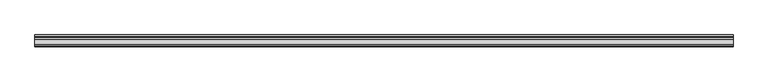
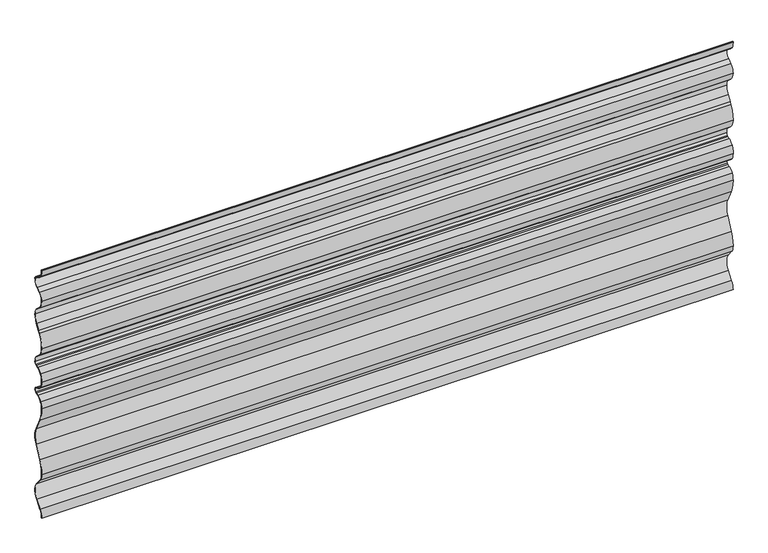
"""IFC4 building model written with IfcOpenShell, lengths in millimetres: plate geometry, Ritmica Horizontal 834 : Ritmica Horizontal 831."""

from ifc_helpers import new_model, si_unit, frame, origin, place, context, project, spatial, polyline, circle_curve, source, transform, mapped, element, save
from ifc_brep_helpers import plane_surface, cylinder_surface, revolved_surface, advanced_brep


def plate_a48b8e76(model_context):
    return source(origin(), model_context, "Body", "AdvancedBrep", [
        advanced_brep(
        [(-1100.1688045, 6.8025667, 810.5701527), (-1100.1688045, 21.555412, 798.1235366), (-1100.1688045, 28.7508552, 795.2445695), (-1100.1688045, 32.2159416, 793.5852059), (-1100.1688045, 37.2499774, 785.5962388), (-1100.1688045, 25.2234387, 760.6206134), (-1100.1688045, 13.2407158, 751.0704574), (-1100.1688045, 1.2626984, 728.5919745), (-1100.1688045, 13.2668735, 701.127971), (-1100.1688045, 25.2571141, 690.0241978), (-1100.1688045, 37.3018308, 665.0573339), (-1100.1688045, 28.8878199, 638.3240963), (-1100.1688045, 17.756965, 620.9910926), (-1100.1688045, 13.3621237, 613.5575548), (-1100.1688045, 1.1795962, 569.3793833), (-1100.1688045, 13.1837712, 541.9153798), (-1100.1688045, 25.1740116, 530.8116067), (-1100.1688045, 37.2187289, 505.8415328), (-1100.1688045, 32.1905098, 497.8521133), (-1100.1688045, 28.7266321, 496.1902275), (-1100.1688045, 21.5332543, 493.3060102), (-1100.1688045, 6.7895069, 480.8486726), (-1100.1688045, 1.0915766, 457.0856569), (-1100.1688045, 6.6008381, 437.5469103), (-1100.1688045, 21.3536834, 425.1002943), (-1100.1688045, 28.5491266, 422.2213272), (-1100.1688045, 32.014213, 420.5619636), (-1100.1688045, 32.02003, 404.580367), (-1100.1688045, 28.5561524, 402.9184814), (-1100.1688045, 21.3628069, 400.034277), (-1100.1688045, 6.6190262, 387.5769248), (-1100.1688045, 1.1239895, 368.0341733), (-1100.1688045, 10.3054912, 324.2892209), (-1100.1688045, 30.7021579, 283.7581494), (-1100.1688045, 30.7217778, 229.8542794), (-1100.1688045, 10.3546215, 189.3083707), (-1100.1688045, 1.2049668, 145.5567461), (-1100.1688045, 9.8168279, 121.7925982), (-1100.1688045, 28.5126192, 99.3683726), (-1100.1688045, 28.5318582, 46.5109184), (-1100.1688045, 9.8523958, 23.7707747), (-1100.1688045, 1.2578365, 0.0), (-1100.1688045, 0.2578364, 0.0), (-1100.1688045, 9.0838592, 24.4105804), (-1100.1688045, 27.7463674, 47.1303588), (-1100.1688045, 27.7275795, 98.7483605), (-1100.1688045, 9.0487572, 121.1522332), (-1100.1688045, 0.2049775, 145.5386154), (-1100.1688045, 9.4571227, 189.7494732), (-1100.1688045, 29.8281826, 230.3031531), (-1100.1688045, 29.8088897, 283.3086253), (-1100.1688045, 9.4083137, 323.8474651), (-1100.1688045, 0.1239872, 368.0515751), (-1100.1688045, 5.7657549, 388.0983921), (-1100.1688045, 20.9908725, 400.9625361), (-1100.1688045, 28.1533532, 403.834365), (-1100.1688045, 31.587463, 405.4819688), (-1100.1688045, 31.5823024, 419.6600471), (-1100.1688045, 28.1469942, 421.3051505), (-1100.1688045, 20.9824248, 424.1717647), (-1100.1688045, 5.7479467, 437.024822), (-1100.1688045, 0.091602, 457.0529178), (-1100.1688045, 5.9328795, 481.3646468), (-1100.1688045, 21.1612849, 494.2342551), (-1100.1688045, 28.3238328, 497.1061111), (-1100.1688045, 31.7579428, 498.7537151), (-1100.1688045, 36.2187289, 505.841531), (-1100.1688045, 24.5223371, 530.052163), (-1100.1688045, 12.5043072, 541.1816709), (-1100.1688045, 0.1796018, 569.3680226), (-1100.1688045, 12.5080329, 614.0778463), (-1100.1688045, 16.9055506, 621.5159109), (-1100.1688045, 28.0560887, 638.8795656), (-1100.1688045, 36.3018302, 665.0587755), (-1100.1688045, 24.6053425, 689.2648438), (-1100.1688045, 12.5874095, 700.3942621), (-1100.1688045, 0.2626985, 728.5916105), (-1100.1688045, 12.6491122, 751.8777021), (-1100.1688045, 24.6001782, 761.4026277), (-1100.1688045, 36.2499775, 785.5958749), (-1100.1688045, 31.784031, 792.6832895), (-1100.1688045, 28.3487228, 794.3283929), (-1100.1688045, 21.1826741, 797.1955989), (-1100.1688045, 5.9471369, 810.0521734), (-1100.1688045, 0.0019432, 831.6592816), (-1100.1688045, 0.0, 834.3289815), (-1100.1688045, 1.0, 834.3289815), (-1100.1688045, 1.0, 831.6596456), (1100.1688045, 6.8025667, 810.5701527), (1100.1688045, 1.0019432, 831.6596456), (1100.1688045, 1.0, 834.3289815), (1100.1688045, 0.0, 834.3289815), (1100.1688045, 0.0, 831.6596456), (1100.1688045, 5.9471369, 810.0521734), (1100.1688045, 21.1826741, 797.1955989), (1100.1688045, 28.3487228, 794.3283929), (1100.1688045, 31.784031, 792.6832895), (1100.1688045, 36.2499775, 785.5958749), (1100.1688045, 24.6001782, 761.4026277), (1100.1688045, 12.6491122, 751.8777021), (1100.1688045, 0.2626985, 728.5916105), (1100.1688045, 12.5874095, 700.3942621), (1100.1688045, 24.6053425, 689.2648438), (1100.1688045, 36.3018302, 665.0587755), (1100.1688045, 28.0560887, 638.8795656), (1100.1688045, 16.9055506, 621.5159109), (1100.1688045, 12.5080329, 614.0778463), (1100.1688045, 0.1796018, 569.3680226), (1100.1688045, 12.5043072, 541.1816709), (1100.1688045, 24.5223371, 530.052163), (1100.1688045, 36.2187289, 505.841531), (1100.1688045, 31.7579428, 498.7537151), (1100.1688045, 28.3238328, 497.1061111), (1100.1688045, 21.1612849, 494.2342551), (1100.1688045, 5.9328795, 481.3646468), (1100.1688045, 0.091602, 457.0529178), (1100.1688045, 5.7479467, 437.024822), (1100.1688045, 20.9824248, 424.1717647), (1100.1688045, 28.1469942, 421.3051505), (1100.1688045, 31.5823024, 419.6600471), (1100.1688045, 31.587463, 405.4819688), (1100.1688045, 28.1533532, 403.834365), (1100.1688045, 20.9908725, 400.9625361), (1100.1688045, 5.7657549, 388.0983921), (1100.1688045, 0.1239872, 368.0515751), (1100.1688045, 9.4083137, 323.8474651), (1100.1688045, 29.8088897, 283.3086253), (1100.1688045, 29.8281826, 230.3031531), (1100.1688045, 9.4571227, 189.7494732), (1100.1688045, 0.2049775, 145.5386154), (1100.1688045, 9.0487572, 121.1522332), (1100.1688045, 27.7275795, 98.7483605), (1100.1688045, 27.7463674, 47.1303588), (1100.1688045, 9.0838592, 24.4105804), (1100.1688045, 0.2578364, 0.0), (1100.1688045, 1.2578365, 0.0), (1100.1688045, 9.8523958, 23.7707747), (1100.1688045, 28.5318582, 46.5109184), (1100.1688045, 28.5126192, 99.3683726), (1100.1688045, 9.8168279, 121.7925982), (1100.1688045, 1.2049668, 145.5567461), (1100.1688045, 10.3546215, 189.3083707), (1100.1688045, 30.7217778, 229.8542794), (1100.1688045, 30.7021579, 283.7581494), (1100.1688045, 10.3054912, 324.2892209), (1100.1688045, 1.1239895, 368.0341733), (1100.1688045, 6.6190262, 387.5769248), (1100.1688045, 21.3628069, 400.034277), (1100.1688045, 28.5561524, 402.9184814), (1100.1688045, 32.02003, 404.580367), (1100.1688045, 32.014213, 420.5619636), (1100.1688045, 28.5491266, 422.2213272), (1100.1688045, 21.3536834, 425.1002943), (1100.1688045, 6.6008381, 437.5469103), (1100.1688045, 1.0915766, 457.0856569), (1100.1688045, 6.7895069, 480.8486726), (1100.1688045, 21.5332543, 493.3060102), (1100.1688045, 28.7266321, 496.1902275), (1100.1688045, 32.1905098, 497.8521133), (1100.1688045, 37.2187289, 505.8415328), (1100.1688045, 25.1740116, 530.8116067), (1100.1688045, 13.1837712, 541.9153798), (1100.1688045, 1.1795962, 569.3793833), (1100.1688045, 13.3621237, 613.5575548), (1100.1688045, 17.756965, 620.9910926), (1100.1688045, 28.8878199, 638.3240963), (1100.1688045, 37.3018308, 665.0573339), (1100.1688045, 25.2571141, 690.0241978), (1100.1688045, 13.2668735, 701.127971), (1100.1688045, 1.2626984, 728.5919745), (1100.1688045, 13.2407158, 751.0704574), (1100.1688045, 25.2234387, 760.6206134), (1100.1688045, 37.2499774, 785.5962388), (1100.1688045, 32.2159416, 793.5852059), (1100.1688045, 28.7508552, 795.2445695), (1100.1688045, 21.555412, 798.1235366)],
        [
            (0, 1, circle_curve(frame((-1100.1688045, 33.118426, 826.7955631), z_axis=(1.0, 0.0, 0.0), x_axis=(0.0, 0.0, 1.0)), 30.9158276)),
            (1, 2),
            (2, 3),
            (3, 4, circle_curve(frame((-1100.1688045, 28.3886335, 785.5930135), z_axis=(-1.0, 0.0, 0.0), x_axis=(0.0, 0.0, 1.0)), 8.8613445)),
            (4, 5, circle_curve(frame((-1100.1688045, 5.3272804, 785.5846196), z_axis=(-1.0, 0.0, 0.0), x_axis=(0.0, 0.0, 1.0)), 31.9226992)),
            (5, 6),
            (6, 7, circle_curve(frame((-1100.1688045, 28.3252849, 728.6018247), z_axis=(1.0, 0.0, 0.0), x_axis=(0.0, 0.0, 1.0)), 27.0625882)),
            (7, 8, circle_curve(frame((-1100.1688045, 38.7130204, 728.6056057), z_axis=(1.0, 0.0, 0.0), x_axis=(0.0, 0.0, 1.0)), 37.4503244)),
            (8, 9),
            (9, 10, circle_curve(frame((-1100.1688045, 5.3791338, 665.0457146), z_axis=(-1.0, 0.0, 0.0), x_axis=(0.0, 0.0, 1.0)), 31.9226992)),
            (10, 11, circle_curve(frame((-1100.1688045, -9.8619916, 665.2109304), z_axis=(-1.0, 0.0, 0.0), x_axis=(0.0, 0.0, 1.0)), 47.1640725)),
            (11, 12),
            (12, 13),
            (13, 14, circle_curve(frame((-1100.1688045, 80.9291998, 571.1565204), z_axis=(1.0, 0.0, 0.0), x_axis=(0.0, 0.0, 1.0)), 79.769402)),
            (14, 15, circle_curve(frame((-1100.1688045, 38.6299181, 569.3930144), z_axis=(1.0, 0.0, 0.0), x_axis=(0.0, 0.0, 1.0)), 37.4503244)),
            (15, 16),
            (16, 17, circle_curve(frame((-1100.1688045, 5.3133473, 505.8414768), z_axis=(-1.0, 0.0, 0.0), x_axis=(0.0, 0.0, 1.0)), 31.9053816)),
            (17, 18, circle_curve(frame((-1100.1688045, 28.3573845, 505.8415173), z_axis=(-1.0, 0.0, 0.0), x_axis=(0.0, 0.0, 1.0)), 8.8613444)),
            (18, 19),
            (19, 20),
            (20, 21, circle_curve(frame((-1100.1688045, 32.9138374, 464.8830737), z_axis=(1.0, 0.0, 0.0), x_axis=(0.0, 0.0, 1.0)), 30.6166783)),
            (21, 22, circle_curve(frame((-1100.1688045, 42.2970284, 459.7699907), z_axis=(1.0, 0.0, 0.0), x_axis=(0.0, 0.0, 1.0)), 41.2927948)),
            (22, 23, circle_curve(frame((-1100.1688045, 38.5418985, 457.0992876), z_axis=(1.0, 0.0, 0.0), x_axis=(0.0, 0.0, 1.0)), 37.4503244)),
            (23, 24, circle_curve(frame((-1100.1688045, 32.7135403, 453.5315208), z_axis=(1.0, 0.0, 0.0), x_axis=(0.0, 0.0, 1.0)), 30.6166783)),
            (24, 25),
            (25, 26),
            (26, 27, circle_curve(frame((-1100.1688045, 28.1869049, 412.5697711), z_axis=(-1.0, 0.0, 0.0), x_axis=(0.0, 0.0, 1.0)), 8.8613445)),
            (27, 28),
            (28, 29),
            (29, 30, circle_curve(frame((-1100.1688045, 32.7433576, 371.6113276), z_axis=(1.0, 0.0, 0.0), x_axis=(0.0, 0.0, 1.0)), 30.6166783)),
            (30, 31, circle_curve(frame((-1100.1688045, 38.5743114, 368.0478045), z_axis=(1.0, 0.0, 0.0), x_axis=(0.0, 0.0, 1.0)), 37.4503244)),
            (31, 32, circle_curve(frame((-1100.1688045, 94.360147, 364.7672254), z_axis=(1.0, 0.0, 0.0), x_axis=(0.0, 0.0, 1.0)), 93.293376)),
            (32, 33),
            (33, 34, circle_curve(frame((-1100.1688045, -22.8939341, 256.7867029), z_axis=(-1.0, 0.0, 0.0), x_axis=(0.0, 0.0, 1.0)), 60.0)),
            (34, 35),
            (35, 36, circle_curve(frame((-1100.1688045, 94.4387214, 148.8915653), z_axis=(1.0, 0.0, 0.0), x_axis=(0.0, 0.0, 1.0)), 93.293376)),
            (36, 37, circle_curve(frame((-1100.1688045, 38.3363847, 145.5702612), z_axis=(1.0, 0.0, 0.0), x_axis=(0.0, 0.0, 1.0)), 37.1314203)),
            (37, 38),
            (38, 39, circle_curve(frame((-1100.1688045, -6.831934, 72.9267773), z_axis=(-1.0, 0.0, 0.0), x_axis=(0.0, 0.0, 1.0)), 44.1406321)),
            (39, 40),
            (40, 41, circle_curve(frame((-1100.1688045, 38.3892542, 0.0138791), z_axis=(1.0, 0.0, 0.0), x_axis=(0.0, 0.0, 1.0)), 37.1314203)),
            (41, 42),
            (42, 43, circle_curve(frame((-1100.1688045, 38.3892542, 0.0138791), z_axis=(-1.0, 0.0, 0.0), x_axis=(0.0, 0.0, 1.0)), 38.1314203)),
            (43, 44),
            (44, 45, circle_curve(frame((-1100.1688045, -6.831934, 72.9267773), z_axis=(1.0, 0.0, 0.0), x_axis=(0.0, 0.0, 1.0)), 43.1406321)),
            (45, 46),
            (46, 47, circle_curve(frame((-1100.1688045, 38.3363847, 145.5702612), z_axis=(-1.0, 0.0, 0.0), x_axis=(0.0, 0.0, 1.0)), 38.1314203)),
            (47, 48, circle_curve(frame((-1100.1688045, 94.4387214, 148.8915653), z_axis=(-1.0, 0.0, 0.0), x_axis=(0.0, 0.0, 1.0)), 94.293376)),
            (48, 49),
            (49, 50, circle_curve(frame((-1100.1688045, -22.8939341, 256.7867029), z_axis=(1.0, 0.0, 0.0), x_axis=(0.0, 0.0, 1.0)), 59.0)),
            (50, 51),
            (51, 52, circle_curve(frame((-1100.1688045, 94.360147, 364.7672254), z_axis=(-1.0, 0.0, 0.0), x_axis=(0.0, 0.0, 1.0)), 94.293376)),
            (52, 53, circle_curve(frame((-1100.1688045, 38.5743114, 368.0478045), z_axis=(-1.0, 0.0, 0.0), x_axis=(0.0, 0.0, 1.0)), 38.4503244)),
            (53, 54, circle_curve(frame((-1100.1688045, 32.7433576, 371.6113276), z_axis=(-1.0, 0.0, 0.0), x_axis=(0.0, 0.0, 1.0)), 31.6166783)),
            (54, 55),
            (55, 56),
            (56, 57, circle_curve(frame((-1100.1688045, 28.1869049, 412.5697711), z_axis=(1.0, 0.0, 0.0), x_axis=(0.0, 0.0, 1.0)), 7.8613445)),
            (57, 58),
            (58, 59),
            (59, 60, circle_curve(frame((-1100.1688045, 32.7135403, 453.5315208), z_axis=(-1.0, 0.0, 0.0), x_axis=(0.0, 0.0, 1.0)), 31.6166783)),
            (60, 61, circle_curve(frame((-1100.1688045, 38.5418985, 457.0992876), z_axis=(-1.0, 0.0, 0.0), x_axis=(0.0, 0.0, 1.0)), 38.4503244)),
            (61, 62, circle_curve(frame((-1100.1688045, 42.2970284, 459.7699907), z_axis=(-1.0, 0.0, 0.0), x_axis=(0.0, 0.0, 1.0)), 42.2927948)),
            (62, 63, circle_curve(frame((-1100.1688045, 32.9138374, 464.8830737), z_axis=(-1.0, 0.0, 0.0), x_axis=(0.0, 0.0, 1.0)), 31.6166782)),
            (63, 64),
            (64, 65),
            (65, 66, circle_curve(frame((-1100.1688045, 28.3573845, 505.8415173), z_axis=(1.0, 0.0, 0.0), x_axis=(0.0, 0.0, 1.0)), 7.8613444)),
            (66, 67, circle_curve(frame((-1100.1688045, 5.3133473, 505.8414768), z_axis=(1.0, 0.0, 0.0), x_axis=(0.0, 0.0, 1.0)), 30.9053816)),
            (67, 68),
            (68, 69, circle_curve(frame((-1100.1688045, 38.6299181, 569.3930144), z_axis=(-1.0, 0.0, 0.0), x_axis=(0.0, 0.0, 1.0)), 38.4503244)),
            (69, 70, circle_curve(frame((-1100.1688045, 80.9291998, 571.1565204), z_axis=(-1.0, 0.0, 0.0), x_axis=(0.0, 0.0, 1.0)), 80.769402)),
            (70, 71),
            (71, 72),
            (72, 73, circle_curve(frame((-1100.1688045, -9.8619916, 665.2109304), z_axis=(1.0, 0.0, 0.0), x_axis=(0.0, 0.0, 1.0)), 46.1640725)),
            (73, 74, circle_curve(frame((-1100.1688045, 5.3791338, 665.0457146), z_axis=(1.0, 0.0, 0.0), x_axis=(0.0, 0.0, 1.0)), 30.9226992)),
            (74, 75),
            (75, 76, circle_curve(frame((-1100.1688045, 38.7130204, 728.6056057), z_axis=(-1.0, 0.0, 0.0), x_axis=(0.0, 0.0, 1.0)), 38.4503244)),
            (76, 77, circle_curve(frame((-1100.1688045, 28.3252849, 728.6018247), z_axis=(-1.0, 0.0, 0.0), x_axis=(0.0, 0.0, 1.0)), 28.0625882)),
            (77, 78),
            (78, 79, circle_curve(frame((-1100.1688045, 5.3272804, 785.5846196), z_axis=(1.0, 0.0, 0.0), x_axis=(0.0, 0.0, 1.0)), 30.9226992)),
            (79, 80, circle_curve(frame((-1100.1688045, 28.3886335, 785.5930135), z_axis=(1.0, 0.0, 0.0), x_axis=(0.0, 0.0, 1.0)), 7.8613445)),
            (80, 81),
            (81, 82),
            (82, 83, circle_curve(frame((-1100.1688045, 33.118426, 826.7955631), z_axis=(-1.0, 0.0, 0.0), x_axis=(0.0, 0.0, 1.0)), 31.9158276)),
            (83, 84, circle_curve(frame((-1100.1688045, 42.2947353, 831.6746753), z_axis=(-1.0, 0.0, 0.0), x_axis=(0.0, 0.0, 1.0)), 42.2927949)),
            (84, 85),
            (85, 86),
            (86, 87),
            (87, 0, circle_curve(frame((-1100.1688045, 42.2947353, 831.6746753), z_axis=(1.0, 0.0, 0.0), x_axis=(0.0, 0.0, 1.0)), 41.2927949)),
            (88, 89, circle_curve(frame((1100.1688045, 42.2947353, 831.6746753), z_axis=(-1.0, 0.0, 0.0), x_axis=(0.0, 0.0, 1.0)), 41.2927949)),
            (89, 90),
            (90, 91),
            (91, 92),
            (92, 93, circle_curve(frame((1100.1688045, 42.2947353, 831.6746753), z_axis=(1.0, 0.0, 0.0), x_axis=(0.0, 0.0, 1.0)), 42.2927949)),
            (93, 94, circle_curve(frame((1100.1688045, 33.118426, 826.7955631), z_axis=(1.0, 0.0, 0.0), x_axis=(0.0, 0.0, 1.0)), 31.9158276)),
            (94, 95),
            (95, 96),
            (96, 97, circle_curve(frame((1100.1688045, 28.3886335, 785.5930135), z_axis=(-1.0, 0.0, 0.0), x_axis=(0.0, 0.0, 1.0)), 7.8613445)),
            (97, 98, circle_curve(frame((1100.1688045, 5.3272804, 785.5846196), z_axis=(-1.0, 0.0, 0.0), x_axis=(0.0, 0.0, 1.0)), 30.9226992)),
            (98, 99),
            (99, 100, circle_curve(frame((1100.1688045, 28.3252849, 728.6018247), z_axis=(1.0, 0.0, 0.0), x_axis=(0.0, 0.0, 1.0)), 28.0625882)),
            (100, 101, circle_curve(frame((1100.1688045, 38.7130204, 728.6056057), z_axis=(1.0, 0.0, 0.0), x_axis=(0.0, 0.0, 1.0)), 38.4503244)),
            (101, 102),
            (102, 103, circle_curve(frame((1100.1688045, 5.3791338, 665.0457146), z_axis=(-1.0, 0.0, 0.0), x_axis=(0.0, 0.0, 1.0)), 30.9226992)),
            (103, 104, circle_curve(frame((1100.1688045, -9.8619916, 665.2109304), z_axis=(-1.0, 0.0, 0.0), x_axis=(0.0, 0.0, 1.0)), 46.1640725)),
            (104, 105),
            (105, 106),
            (106, 107, circle_curve(frame((1100.1688045, 80.9291998, 571.1565204), z_axis=(1.0, 0.0, 0.0), x_axis=(0.0, 0.0, 1.0)), 80.769402)),
            (107, 108, circle_curve(frame((1100.1688045, 38.6299181, 569.3930144), z_axis=(1.0, 0.0, 0.0), x_axis=(0.0, 0.0, 1.0)), 38.4503244)),
            (108, 109),
            (109, 110, circle_curve(frame((1100.1688045, 5.3133473, 505.8414768), z_axis=(-1.0, 0.0, 0.0), x_axis=(0.0, 0.0, 1.0)), 30.9053816)),
            (110, 111, circle_curve(frame((1100.1688045, 28.3573845, 505.8415173), z_axis=(-1.0, 0.0, 0.0), x_axis=(0.0, 0.0, 1.0)), 7.8613444)),
            (111, 112),
            (112, 113),
            (113, 114, circle_curve(frame((1100.1688045, 32.9138374, 464.8830737), z_axis=(1.0, 0.0, 0.0), x_axis=(0.0, 0.0, 1.0)), 31.6166782)),
            (114, 115, circle_curve(frame((1100.1688045, 42.2970284, 459.7699907), z_axis=(1.0, 0.0, 0.0), x_axis=(0.0, 0.0, 1.0)), 42.2927948)),
            (115, 116, circle_curve(frame((1100.1688045, 38.5418985, 457.0992876), z_axis=(1.0, 0.0, 0.0), x_axis=(0.0, 0.0, 1.0)), 38.4503244)),
            (116, 117, circle_curve(frame((1100.1688045, 32.7135403, 453.5315208), z_axis=(1.0, 0.0, 0.0), x_axis=(0.0, 0.0, 1.0)), 31.6166783)),
            (117, 118),
            (118, 119),
            (119, 120, circle_curve(frame((1100.1688045, 28.1869049, 412.5697711), z_axis=(-1.0, 0.0, 0.0), x_axis=(0.0, 0.0, 1.0)), 7.8613445)),
            (120, 121),
            (121, 122),
            (122, 123, circle_curve(frame((1100.1688045, 32.7433576, 371.6113276), z_axis=(1.0, 0.0, 0.0), x_axis=(0.0, 0.0, 1.0)), 31.6166783)),
            (123, 124, circle_curve(frame((1100.1688045, 38.5743114, 368.0478045), z_axis=(1.0, 0.0, 0.0), x_axis=(0.0, 0.0, 1.0)), 38.4503244)),
            (124, 125, circle_curve(frame((1100.1688045, 94.360147, 364.7672254), z_axis=(1.0, 0.0, 0.0), x_axis=(0.0, 0.0, 1.0)), 94.293376)),
            (125, 126),
            (126, 127, circle_curve(frame((1100.1688045, -22.8939341, 256.7867029), z_axis=(-1.0, 0.0, 0.0), x_axis=(0.0, 0.0, 1.0)), 59.0)),
            (127, 128),
            (128, 129, circle_curve(frame((1100.1688045, 94.4387214, 148.8915653), z_axis=(1.0, 0.0, 0.0), x_axis=(0.0, 0.0, 1.0)), 94.293376)),
            (129, 130, circle_curve(frame((1100.1688045, 38.3363847, 145.5702612), z_axis=(1.0, 0.0, 0.0), x_axis=(0.0, 0.0, 1.0)), 38.1314203)),
            (130, 131),
            (131, 132, circle_curve(frame((1100.1688045, -6.831934, 72.9267773), z_axis=(-1.0, 0.0, 0.0), x_axis=(0.0, 0.0, 1.0)), 43.1406321)),
            (132, 133),
            (133, 134, circle_curve(frame((1100.1688045, 38.3892542, 0.0138791), z_axis=(1.0, 0.0, 0.0), x_axis=(0.0, 0.0, 1.0)), 38.1314203)),
            (134, 135),
            (135, 136, circle_curve(frame((1100.1688045, 38.3892542, 0.0138791), z_axis=(-1.0, 0.0, 0.0), x_axis=(0.0, 0.0, 1.0)), 37.1314203)),
            (136, 137),
            (137, 138, circle_curve(frame((1100.1688045, -6.831934, 72.9267773), z_axis=(1.0, 0.0, 0.0), x_axis=(0.0, 0.0, 1.0)), 44.1406321)),
            (138, 139),
            (139, 140, circle_curve(frame((1100.1688045, 38.3363847, 145.5702612), z_axis=(-1.0, 0.0, 0.0), x_axis=(0.0, 0.0, 1.0)), 37.1314203)),
            (140, 141, circle_curve(frame((1100.1688045, 94.4387214, 148.8915653), z_axis=(-1.0, 0.0, 0.0), x_axis=(0.0, 0.0, 1.0)), 93.293376)),
            (141, 142),
            (142, 143, circle_curve(frame((1100.1688045, -22.8939341, 256.7867029), z_axis=(1.0, 0.0, 0.0), x_axis=(0.0, 0.0, 1.0)), 60.0)),
            (143, 144),
            (144, 145, circle_curve(frame((1100.1688045, 94.360147, 364.7672254), z_axis=(-1.0, 0.0, 0.0), x_axis=(0.0, 0.0, 1.0)), 93.293376)),
            (145, 146, circle_curve(frame((1100.1688045, 38.5743114, 368.0478045), z_axis=(-1.0, 0.0, 0.0), x_axis=(0.0, 0.0, 1.0)), 37.4503244)),
            (146, 147, circle_curve(frame((1100.1688045, 32.7433576, 371.6113276), z_axis=(-1.0, 0.0, 0.0), x_axis=(0.0, 0.0, 1.0)), 30.6166783)),
            (147, 148),
            (148, 149),
            (149, 150, circle_curve(frame((1100.1688045, 28.1869049, 412.5697711), z_axis=(1.0, 0.0, 0.0), x_axis=(0.0, 0.0, 1.0)), 8.8613445)),
            (150, 151),
            (151, 152),
            (152, 153, circle_curve(frame((1100.1688045, 32.7135403, 453.5315208), z_axis=(-1.0, 0.0, 0.0), x_axis=(0.0, 0.0, 1.0)), 30.6166783)),
            (153, 154, circle_curve(frame((1100.1688045, 38.5418985, 457.0992876), z_axis=(-1.0, 0.0, 0.0), x_axis=(0.0, 0.0, 1.0)), 37.4503244)),
            (154, 155, circle_curve(frame((1100.1688045, 42.2970284, 459.7699907), z_axis=(-1.0, 0.0, 0.0), x_axis=(0.0, 0.0, 1.0)), 41.2927948)),
            (155, 156, circle_curve(frame((1100.1688045, 32.9138374, 464.8830737), z_axis=(-1.0, 0.0, 0.0), x_axis=(0.0, 0.0, 1.0)), 30.6166783)),
            (156, 157),
            (157, 158),
            (158, 159, circle_curve(frame((1100.1688045, 28.3573845, 505.8415173), z_axis=(1.0, 0.0, 0.0), x_axis=(0.0, 0.0, 1.0)), 8.8613444)),
            (159, 160, circle_curve(frame((1100.1688045, 5.3133473, 505.8414768), z_axis=(1.0, 0.0, 0.0), x_axis=(0.0, 0.0, 1.0)), 31.9053816)),
            (160, 161),
            (161, 162, circle_curve(frame((1100.1688045, 38.6299181, 569.3930144), z_axis=(-1.0, 0.0, 0.0), x_axis=(0.0, 0.0, 1.0)), 37.4503244)),
            (162, 163, circle_curve(frame((1100.1688045, 80.9291998, 571.1565204), z_axis=(-1.0, 0.0, 0.0), x_axis=(0.0, 0.0, 1.0)), 79.769402)),
            (163, 164),
            (164, 165),
            (165, 166, circle_curve(frame((1100.1688045, -9.8619916, 665.2109304), z_axis=(1.0, 0.0, 0.0), x_axis=(0.0, 0.0, 1.0)), 47.1640725)),
            (166, 167, circle_curve(frame((1100.1688045, 5.3791338, 665.0457146), z_axis=(1.0, 0.0, 0.0), x_axis=(0.0, 0.0, 1.0)), 31.9226992)),
            (167, 168),
            (168, 169, circle_curve(frame((1100.1688045, 38.7130204, 728.6056057), z_axis=(-1.0, 0.0, 0.0), x_axis=(0.0, 0.0, 1.0)), 37.4503244)),
            (169, 170, circle_curve(frame((1100.1688045, 28.3252849, 728.6018247), z_axis=(-1.0, 0.0, 0.0), x_axis=(0.0, 0.0, 1.0)), 27.0625882)),
            (170, 171),
            (171, 172, circle_curve(frame((1100.1688045, 5.3272804, 785.5846196), z_axis=(1.0, 0.0, 0.0), x_axis=(0.0, 0.0, 1.0)), 31.9226992)),
            (172, 173, circle_curve(frame((1100.1688045, 28.3886335, 785.5930135), z_axis=(1.0, 0.0, 0.0), x_axis=(0.0, 0.0, 1.0)), 8.8613445)),
            (173, 174),
            (174, 175),
            (175, 88, circle_curve(frame((1100.1688045, 33.118426, 826.7955631), z_axis=(-1.0, 0.0, 0.0), x_axis=(0.0, 0.0, 1.0)), 30.9158276)),
            (87, 89),
            (88, 0),
            (175, 1),
            (174, 2),
            (173, 3),
            (172, 4),
            (171, 5),
            (170, 6),
            (169, 7),
            (168, 8),
            (167, 9),
            (166, 10),
            (165, 11),
            (164, 12),
            (163, 13),
            (162, 14),
            (161, 15),
            (160, 16),
            (159, 17),
            (158, 18),
            (157, 19),
            (156, 20),
            (155, 21),
            (154, 22),
            (153, 23),
            (152, 24),
            (151, 25),
            (150, 26),
            (149, 27),
            (148, 28),
            (147, 29),
            (146, 30),
            (145, 31),
            (144, 32),
            (143, 33),
            (142, 34),
            (141, 35),
            (140, 36),
            (139, 37),
            (138, 38),
            (137, 39),
            (136, 40),
            (135, 41),
            (134, 42),
            (133, 43),
            (132, 44),
            (131, 45),
            (130, 46),
            (129, 47),
            (128, 48),
            (127, 49),
            (126, 50),
            (125, 51),
            (124, 52),
            (123, 53),
            (122, 54),
            (121, 55),
            (120, 56),
            (119, 57),
            (118, 58),
            (117, 59),
            (116, 60),
            (115, 61),
            (114, 62),
            (113, 63),
            (112, 64),
            (111, 65),
            (110, 66),
            (109, 67),
            (108, 68),
            (107, 69),
            (106, 70),
            (105, 71),
            (104, 72),
            (103, 73),
            (102, 74),
            (101, 75),
            (100, 76),
            (99, 77),
            (98, 78),
            (97, 79),
            (96, 80),
            (95, 81),
            (94, 82),
            (93, 83),
            (92, 84),
            (91, 85),
            (90, 86),
        ],
        [
            plane_surface(frame((-1100.1688045, 33.118426, 857.7113907), z_axis=(-1.0, 0.0, 0.0), x_axis=(0.0, -1.0, 0.0))),
            plane_surface(frame((1100.1688045, 33.118426, 857.7113907), z_axis=(1.0, 0.0, 0.0), x_axis=(0.0, 1.0, 0.0))),
            revolved_surface(polyline([(1100.1688045, 42.2947353, 872.9674702), (-1100.1688045, 42.2947353, 872.9674702)]), (1100.1688045, 42.2947353, 831.6746753), (1.0, 0.0, 0.0)),
            revolved_surface(polyline([(1100.1688045, 33.118426, 857.7113907), (-1100.1688045, 33.118426, 857.7113907)]), (1100.1688045, 33.118426, 826.7955631), (1.0, 0.0, 0.0)),
            plane_surface(frame((-1100.1688045, 21.555412, 798.1235366), z_axis=(0.0, 0.3714785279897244, 0.9284415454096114), x_axis=(1.0, 0.0, 0.0))),
            plane_surface(frame((-1100.1688045, 28.7508552, 795.2445695), z_axis=(0.0, 0.4319105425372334, 0.9019164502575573), x_axis=(1.0, 0.0, 0.0))),
            cylinder_surface(frame((1100.1688045, 28.3886335, 785.5930135), z_axis=(-1.0, 0.0, 0.0), x_axis=(0.0, 0.0, 1.0)), 8.8613445),
            cylinder_surface(frame((1100.1688045, 5.3272804, 785.5846196), z_axis=(-1.0, 0.0, 0.0), x_axis=(0.0, 0.0, 1.0)), 31.9226992),
            plane_surface(frame((-1100.1688045, 25.2234387, 760.6206134), z_axis=(0.0, 0.6232605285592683, -0.7820142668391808), x_axis=(1.0, 0.0, 0.0))),
            revolved_surface(polyline([(1100.1688045, 28.3252849, 755.6644129), (-1100.1688045, 28.3252849, 755.6644129)]), (1100.1688045, 28.3252849, 728.6018247), (1.0, 0.0, 0.0)),
            revolved_surface(polyline([(1100.1688045, 38.7130204, 766.0559301), (-1100.1688045, 38.7130204, 766.0559301)]), (1100.1688045, 38.7130204, 728.6056057), (1.0, 0.0, 0.0)),
            plane_surface(frame((-1100.1688045, 13.2668735, 701.127971), z_axis=(0.0, 0.6794639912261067, 0.7337088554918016), x_axis=(1.0, 0.0, 0.0))),
            cylinder_surface(frame((1100.1688045, 5.3791338, 665.0457146), z_axis=(-1.0, 0.0, 0.0), x_axis=(0.0, 0.0, 1.0)), 31.9226992),
            cylinder_surface(frame((1100.1688045, -9.8619916, 665.2109304), z_axis=(-1.0, 0.0, 0.0), x_axis=(0.0, 0.0, 1.0)), 47.1640725),
            plane_surface(frame((-1100.1688045, 28.8878199, 638.3240963), z_axis=(0.0, 0.8414387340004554, -0.5403525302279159), x_axis=(1.0, 0.0, 0.0))),
            plane_surface(frame((-1100.1688045, 17.756965, 620.9910926), z_axis=(0.0, 0.8608100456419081, -0.5089263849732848), x_axis=(1.0, 0.0, 0.0))),
            revolved_surface(polyline([(1100.1688045, 80.9291998, 650.9259224), (-1100.1688045, 80.9291998, 650.9259224)]), (1100.1688045, 80.9291998, 571.1565204), (1.0, 0.0, 0.0)),
            revolved_surface(polyline([(1100.1688045, 38.6299181, 606.8433388), (-1100.1688045, 38.6299181, 606.8433388)]), (1100.1688045, 38.6299181, 569.3930144), (1.0, 0.0, 0.0)),
            plane_surface(frame((-1100.1688045, 13.1837712, 541.9153798), z_axis=(0.0, 0.6794639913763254, 0.7337088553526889), x_axis=(1.0, 0.0, 0.0))),
            cylinder_surface(frame((1100.1688045, 5.3133473, 505.8414768), z_axis=(-1.0, 0.0, 0.0), x_axis=(0.0, 0.0, 1.0)), 31.9053816),
            cylinder_surface(frame((1100.1688045, 28.3573845, 505.8415173), z_axis=(-1.0, 0.0, 0.0), x_axis=(0.0, 0.0, 1.0)), 8.8613444),
            plane_surface(frame((-1100.1688045, 32.1905098, 497.8521133), z_axis=(0.0, 0.43256701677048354, -0.9016017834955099), x_axis=(1.0, 0.0, 0.0))),
            plane_surface(frame((-1100.1688045, 28.7266321, 496.1902275), z_axis=(0.0, 0.37215430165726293, -0.9281708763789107), x_axis=(1.0, 0.0, 0.0))),
            revolved_surface(polyline([(1100.1688045, 32.9138374, 495.499752), (-1100.1688045, 32.9138374, 495.499752)]), (1100.1688045, 32.9138374, 464.8830737), (1.0, 0.0, 0.0)),
            revolved_surface(polyline([(1100.1688045, 42.2970284, 501.0627855), (-1100.1688045, 42.2970284, 501.0627855)]), (1100.1688045, 42.2970284, 459.7699907), (1.0, 0.0, 0.0)),
            revolved_surface(polyline([(1100.1688045, 38.5418985, 494.549612), (-1100.1688045, 38.5418985, 494.549612)]), (1100.1688045, 38.5418985, 457.0992876), (1.0, 0.0, 0.0)),
            revolved_surface(polyline([(1100.1688045, 32.7135403, 484.1481991), (-1100.1688045, 32.7135403, 484.1481991)]), (1100.1688045, 32.7135403, 453.5315208), (1.0, 0.0, 0.0)),
            plane_surface(frame((-1100.1688045, 21.3536834, 425.1002943), z_axis=(0.0, 0.3714785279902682, 0.9284415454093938), x_axis=(1.0, 0.0, 0.0))),
            plane_surface(frame((-1100.1688045, 28.5491266, 422.2213272), z_axis=(0.0, 0.43191054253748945, 0.9019164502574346), x_axis=(1.0, 0.0, 0.0))),
            cylinder_surface(frame((1100.1688045, 28.1869049, 412.5697711), z_axis=(-1.0, 0.0, 0.0), x_axis=(0.0, 0.0, 1.0)), 8.8613445),
            plane_surface(frame((-1100.1688045, 32.02003, 404.580367), z_axis=(0.0, 0.432566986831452, -0.901601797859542), x_axis=(1.0, 0.0, 0.0))),
            plane_surface(frame((-1100.1688045, 28.5561524, 402.9184814), z_axis=(0.0, 0.3721542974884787, -0.9281708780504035), x_axis=(1.0, 0.0, 0.0))),
            revolved_surface(polyline([(1100.1688045, 32.7433576, 402.22800589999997), (-1100.1688045, 32.7433576, 402.22800589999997)]), (1100.1688045, 32.7433576, 371.6113276), (1.0, 0.0, 0.0)),
            revolved_surface(polyline([(1100.1688045, 38.5743114, 405.4981289), (-1100.1688045, 38.5743114, 405.4981289)]), (1100.1688045, 38.5743114, 368.0478045), (1.0, 0.0, 0.0)),
            revolved_surface(polyline([(1100.1688045, 94.360147, 458.0606014), (-1100.1688045, 94.360147, 458.0606014)]), (1100.1688045, 94.360147, 364.7672254), (1.0, 0.0, 0.0)),
            plane_surface(frame((-1100.1688045, 10.3054912, 324.2892209), z_axis=(0.0, 0.8932681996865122, 0.4495241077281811), x_axis=(1.0, 0.0, 0.0))),
            cylinder_surface(frame((1100.1688045, -22.8939341, 256.7867029), z_axis=(-1.0, 0.0, 0.0), x_axis=(0.0, 0.0, 1.0)), 60.0),
            plane_surface(frame((-1100.1688045, 30.7217778, 229.8542794), z_axis=(0.0, 0.8935951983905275, -0.44887372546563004), x_axis=(1.0, 0.0, 0.0))),
            revolved_surface(polyline([(1100.1688045, 94.4387214, 242.1849413), (-1100.1688045, 94.4387214, 242.1849413)]), (1100.1688045, 94.4387214, 148.8915653), (1.0, 0.0, 0.0)),
            revolved_surface(polyline([(1100.1688045, 38.3363847, 182.7016815), (-1100.1688045, 38.3363847, 182.7016815)]), (1100.1688045, 38.3363847, 145.5702612), (1.0, 0.0, 0.0)),
            plane_surface(frame((-1100.1688045, 9.8168279, 121.7925982), z_axis=(0.0, 0.768070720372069, 0.640365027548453), x_axis=(1.0, 0.0, 0.0))),
            cylinder_surface(frame((1100.1688045, -6.831934, 72.9267773), z_axis=(-1.0, 0.0, 0.0), x_axis=(0.0, 0.0, 1.0)), 44.1406321),
            plane_surface(frame((-1100.1688045, 28.5318582, 46.5109184), z_axis=(0.0, 0.7727252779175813, -0.6347406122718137), x_axis=(1.0, 0.0, 0.0))),
            revolved_surface(polyline([(1100.1688045, 38.3892542, 37.1452994), (-1100.1688045, 38.3892542, 37.1452994)]), (1100.1688045, 38.3892542, 0.0138791), (1.0, 0.0, 0.0)),
            plane_surface(frame((-1100.1688045, 1.2578365, 0.0), z_axis=(0.0, 0.0, -1.0), x_axis=(1.0, 0.0, 0.0))),
            cylinder_surface(frame((1100.1688045, 38.3892542, 0.0138791), z_axis=(-1.0, 0.0, 0.0), x_axis=(0.0, 0.0, 1.0)), 38.1314203),
            plane_surface(frame((-1100.1688045, 9.0838592, 24.4105804), z_axis=(0.0, -0.772729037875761, 0.6347360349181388), x_axis=(1.0, 0.0, 0.0))),
            revolved_surface(polyline([(1100.1688045, -6.831934, 116.0674094), (-1100.1688045, -6.831934, 116.0674094)]), (1100.1688045, -6.831934, 72.9267773), (1.0, 0.0, 0.0)),
            plane_surface(frame((-1100.1688045, 27.7275795, 98.7483605), z_axis=(0.0, -0.7680707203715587, -0.6403650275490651), x_axis=(1.0, 0.0, 0.0))),
            cylinder_surface(frame((1100.1688045, 38.3363847, 145.5702612), z_axis=(-1.0, 0.0, 0.0), x_axis=(0.0, 0.0, 1.0)), 38.1314203),
            cylinder_surface(frame((1100.1688045, 94.4387214, 148.8915653), z_axis=(-1.0, 0.0, 0.0), x_axis=(0.0, 0.0, 1.0)), 94.293376),
            plane_surface(frame((-1100.1688045, 9.4571227, 189.7494732), z_axis=(0.0, -0.893595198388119, 0.448873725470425), x_axis=(1.0, 0.0, 0.0))),
            revolved_surface(polyline([(1100.1688045, -22.8939341, 315.7867029), (-1100.1688045, -22.8939341, 315.7867029)]), (1100.1688045, -22.8939341, 256.7867029), (1.0, 0.0, 0.0)),
            plane_surface(frame((-1100.1688045, 29.8088897, 283.3086253), z_axis=(0.0, -0.8932681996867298, -0.4495241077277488), x_axis=(1.0, 0.0, 0.0))),
            cylinder_surface(frame((1100.1688045, 94.360147, 364.7672254), z_axis=(-1.0, 0.0, 0.0), x_axis=(0.0, 0.0, 1.0)), 94.293376),
            cylinder_surface(frame((1100.1688045, 38.5743114, 368.0478045), z_axis=(-1.0, 0.0, 0.0), x_axis=(0.0, 0.0, 1.0)), 38.4503244),
            cylinder_surface(frame((1100.1688045, 32.7433576, 371.6113276), z_axis=(-1.0, 0.0, 0.0), x_axis=(0.0, 0.0, 1.0)), 31.6166783),
            plane_surface(frame((-1100.1688045, 20.9908725, 400.9625361), z_axis=(0.0, -0.3721542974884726, 0.9281708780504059), x_axis=(1.0, 0.0, 0.0))),
            plane_surface(frame((-1100.1688045, 28.1533532, 403.834365), z_axis=(0.0, -0.43256698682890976, 0.9016017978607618), x_axis=(1.0, 0.0, 0.0))),
            revolved_surface(polyline([(1100.1688045, 28.1869049, 420.4311156), (-1100.1688045, 28.1869049, 420.4311156)]), (1100.1688045, 28.1869049, 412.5697711), (1.0, 0.0, 0.0)),
            plane_surface(frame((-1100.1688045, 31.5823024, 419.6600471), z_axis=(0.0, -0.43191054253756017, -0.9019164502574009), x_axis=(1.0, 0.0, 0.0))),
            plane_surface(frame((-1100.1688045, 28.1469942, 421.3051505), z_axis=(0.0, -0.3714785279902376, -0.9284415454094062), x_axis=(1.0, 0.0, 0.0))),
            cylinder_surface(frame((1100.1688045, 32.7135403, 453.5315208), z_axis=(-1.0, 0.0, 0.0), x_axis=(0.0, 0.0, 1.0)), 31.6166783),
            cylinder_surface(frame((1100.1688045, 38.5418985, 457.0992876), z_axis=(-1.0, 0.0, 0.0), x_axis=(0.0, 0.0, 1.0)), 38.4503244),
            cylinder_surface(frame((1100.1688045, 42.2970284, 459.7699907), z_axis=(-1.0, 0.0, 0.0), x_axis=(0.0, 0.0, 1.0)), 42.2927948),
            cylinder_surface(frame((1100.1688045, 32.9138374, 464.8830737), z_axis=(-1.0, 0.0, 0.0), x_axis=(0.0, 0.0, 1.0)), 31.6166782),
            plane_surface(frame((-1100.1688045, 21.1612849, 494.2342551), z_axis=(0.0, -0.3721543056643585, 0.9281708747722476), x_axis=(1.0, 0.0, 0.0))),
            plane_surface(frame((-1100.1688045, 28.3238328, 497.1061111), z_axis=(0.0, -0.43256701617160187, 0.9016017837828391), x_axis=(1.0, 0.0, 0.0))),
            revolved_surface(polyline([(1100.1688045, 28.3573845, 513.7028617), (-1100.1688045, 28.3573845, 513.7028617)]), (1100.1688045, 28.3573845, 505.8415173), (1.0, 0.0, 0.0)),
            revolved_surface(polyline([(1100.1688045, 5.3133473, 536.7468584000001), (-1100.1688045, 5.3133473, 536.7468584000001)]), (1100.1688045, 5.3133473, 505.8414768), (1.0, 0.0, 0.0)),
            plane_surface(frame((-1100.1688045, 24.5223371, 530.052163), z_axis=(0.0, -0.6794639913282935, -0.7337088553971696), x_axis=(1.0, 0.0, 0.0))),
            cylinder_surface(frame((1100.1688045, 38.6299181, 569.3930144), z_axis=(-1.0, 0.0, 0.0), x_axis=(0.0, 0.0, 1.0)), 38.4503244),
            cylinder_surface(frame((1100.1688045, 80.9291998, 571.1565204), z_axis=(-1.0, 0.0, 0.0), x_axis=(0.0, 0.0, 1.0)), 80.769402),
            plane_surface(frame((-1100.1688045, 12.5080329, 614.0778463), z_axis=(0.0, -0.8608100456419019, 0.5089263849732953), x_axis=(1.0, 0.0, 0.0))),
            plane_surface(frame((-1100.1688045, 16.9055506, 621.5159109), z_axis=(0.0, -0.8414387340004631, 0.5403525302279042), x_axis=(1.0, 0.0, 0.0))),
            revolved_surface(polyline([(1100.1688045, -9.8619916, 711.3750029), (-1100.1688045, -9.8619916, 711.3750029)]), (1100.1688045, -9.8619916, 665.2109304), (1.0, 0.0, 0.0)),
            revolved_surface(polyline([(1100.1688045, 5.3791338, 695.9684138), (-1100.1688045, 5.3791338, 695.9684138)]), (1100.1688045, 5.3791338, 665.0457146), (1.0, 0.0, 0.0)),
            plane_surface(frame((-1100.1688045, 24.6053425, 689.2648438), z_axis=(0.0, -0.6794639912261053, -0.7337088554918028), x_axis=(1.0, 0.0, 0.0))),
            cylinder_surface(frame((1100.1688045, 38.7130204, 728.6056057), z_axis=(-1.0, 0.0, 0.0), x_axis=(0.0, 0.0, 1.0)), 38.4503244),
            cylinder_surface(frame((1100.1688045, 28.3252849, 728.6018247), z_axis=(-1.0, 0.0, 0.0), x_axis=(0.0, 0.0, 1.0)), 28.0625882),
            plane_surface(frame((-1100.1688045, 12.6491122, 751.8777021), z_axis=(0.0, -0.6232605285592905, 0.7820142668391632), x_axis=(1.0, 0.0, 0.0))),
            revolved_surface(polyline([(1100.1688045, 5.3272804, 816.5073188), (-1100.1688045, 5.3272804, 816.5073188)]), (1100.1688045, 5.3272804, 785.5846196), (1.0, 0.0, 0.0)),
            revolved_surface(polyline([(1100.1688045, 28.3886335, 793.454358), (-1100.1688045, 28.3886335, 793.454358)]), (1100.1688045, 28.3886335, 785.5930135), (1.0, 0.0, 0.0)),
            plane_surface(frame((-1100.1688045, 31.784031, 792.6832895), z_axis=(0.0, -0.43191054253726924, -0.9019164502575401), x_axis=(1.0, 0.0, 0.0))),
            plane_surface(frame((-1100.1688045, 28.3487228, 794.3283929), z_axis=(0.0, -0.37147852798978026, -0.9284415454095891), x_axis=(1.0, 0.0, 0.0))),
            cylinder_surface(frame((1100.1688045, 33.118426, 826.7955631), z_axis=(-1.0, 0.0, 0.0), x_axis=(0.0, 0.0, 1.0)), 31.9158276),
            cylinder_surface(frame((1100.1688045, 42.2947353, 831.6746753), z_axis=(-1.0, 0.0, 0.0), x_axis=(0.0, 0.0, 1.0)), 42.2927949),
            plane_surface(frame((-1100.1688045, 0.0, 831.6596456), z_axis=(0.0, -1.0, 0.0), x_axis=(1.0, 0.0, 0.0))),
            plane_surface(frame((-1100.1688045, 0.0, 834.3289815), z_axis=(0.0, 0.0, 1.0), x_axis=(1.0, 0.0, 0.0))),
            plane_surface(frame((-1100.1688045, 1.0, 834.3289815), z_axis=(0.0, 1.0, 0.0), x_axis=(1.0, 0.0, 0.0))),
        ],
        [
            (0, [[1, 2, 3, 4, 5, 6, 7, 8, 9, 10, 11, 12, 13, 14, 15, 16, 17, 18, 19, 20, 21, 22, 23, 24, 25, 26, 27, 28, 29, 30, 31, 32, 33, 34, 35, 36, 37, 38, 39, 40, 41, 42, 43, 44, 45, 46, 47, 48, 49, 50, 51, 52, 53, 54, 55, 56, 57, 58, 59, 60, 61, 62, 63, 64, 65, 66, 67, 68, 69, 70, 71, 72, 73, 74, 75, 76, 77, 78, 79, 80, 81, 82, 83, 84, 85, 86, 87, 88]]),
            (1, [[89, 90, 91, 92, 93, 94, 95, 96, 97, 98, 99, 100, 101, 102, 103, 104, 105, 106, 107, 108, 109, 110, 111, 112, 113, 114, 115, 116, 117, 118, 119, 120, 121, 122, 123, 124, 125, 126, 127, 128, 129, 130, 131, 132, 133, 134, 135, 136, 137, 138, 139, 140, 141, 142, 143, 144, 145, 146, 147, 148, 149, 150, 151, 152, 153, 154, 155, 156, 157, 158, 159, 160, 161, 162, 163, 164, 165, 166, 167, 168, 169, 170, 171, 172, 173, 174, 175, 176]]),
            (2, [[-88, 177, -89, 178]]),
            (3, [[-1, -178, -176, 179]]),
            (4, [[-2, -179, -175, 180]]),
            (5, [[-3, -180, -174, 181]]),
            (6, [[-4, -181, -173, 182]]),
            (7, [[-5, -182, -172, 183]]),
            (8, [[-6, -183, -171, 184]]),
            (9, [[-7, -184, -170, 185]]),
            (10, [[-8, -185, -169, 186]]),
            (11, [[-9, -186, -168, 187]]),
            (12, [[-10, -187, -167, 188]]),
            (13, [[-11, -188, -166, 189]]),
            (14, [[-12, -189, -165, 190]]),
            (15, [[-13, -190, -164, 191]]),
            (16, [[-14, -191, -163, 192]]),
            (17, [[-15, -192, -162, 193]]),
            (18, [[-16, -193, -161, 194]]),
            (19, [[-17, -194, -160, 195]]),
            (20, [[-18, -195, -159, 196]]),
            (21, [[-19, -196, -158, 197]]),
            (22, [[-20, -197, -157, 198]]),
            (23, [[-21, -198, -156, 199]]),
            (24, [[-22, -199, -155, 200]]),
            (25, [[-23, -200, -154, 201]]),
            (26, [[-24, -201, -153, 202]]),
            (27, [[-25, -202, -152, 203]]),
            (28, [[-26, -203, -151, 204]]),
            (29, [[-27, -204, -150, 205]]),
            (30, [[-28, -205, -149, 206]]),
            (31, [[-29, -206, -148, 207]]),
            (32, [[-30, -207, -147, 208]]),
            (33, [[-31, -208, -146, 209]]),
            (34, [[-32, -209, -145, 210]]),
            (35, [[-33, -210, -144, 211]]),
            (36, [[-34, -211, -143, 212]]),
            (37, [[-35, -212, -142, 213]]),
            (38, [[-36, -213, -141, 214]]),
            (39, [[-37, -214, -140, 215]]),
            (40, [[-38, -215, -139, 216]]),
            (41, [[-39, -216, -138, 217]]),
            (42, [[-40, -217, -137, 218]]),
            (43, [[-41, -218, -136, 219]]),
            (44, [[-42, -219, -135, 220]]),
            (45, [[-43, -220, -134, 221]]),
            (46, [[-44, -221, -133, 222]]),
            (47, [[-45, -222, -132, 223]]),
            (48, [[-46, -223, -131, 224]]),
            (49, [[-47, -224, -130, 225]]),
            (50, [[-48, -225, -129, 226]]),
            (51, [[-49, -226, -128, 227]]),
            (52, [[-50, -227, -127, 228]]),
            (53, [[-51, -228, -126, 229]]),
            (54, [[-52, -229, -125, 230]]),
            (55, [[-53, -230, -124, 231]]),
            (56, [[-54, -231, -123, 232]]),
            (57, [[-55, -232, -122, 233]]),
            (58, [[-56, -233, -121, 234]]),
            (59, [[-57, -234, -120, 235]]),
            (60, [[-58, -235, -119, 236]]),
            (61, [[-59, -236, -118, 237]]),
            (62, [[-60, -237, -117, 238]]),
            (63, [[-61, -238, -116, 239]]),
            (64, [[-62, -239, -115, 240]]),
            (65, [[-63, -240, -114, 241]]),
            (66, [[-64, -241, -113, 242]]),
            (67, [[-65, -242, -112, 243]]),
            (68, [[-66, -243, -111, 244]]),
            (69, [[-67, -244, -110, 245]]),
            (70, [[-68, -245, -109, 246]]),
            (71, [[-69, -246, -108, 247]]),
            (72, [[-70, -247, -107, 248]]),
            (73, [[-71, -248, -106, 249]]),
            (74, [[-72, -249, -105, 250]]),
            (75, [[-73, -250, -104, 251]]),
            (76, [[-74, -251, -103, 252]]),
            (77, [[-75, -252, -102, 253]]),
            (78, [[-76, -253, -101, 254]]),
            (79, [[-77, -254, -100, 255]]),
            (80, [[-78, -255, -99, 256]]),
            (81, [[-79, -256, -98, 257]]),
            (82, [[-80, -257, -97, 258]]),
            (83, [[-81, -258, -96, 259]]),
            (84, [[-82, -259, -95, 260]]),
            (85, [[-83, -260, -94, 261]]),
            (86, [[-84, -261, -93, 262]]),
            (87, [[-85, -262, -92, 263]]),
            (88, [[-86, -263, -91, 264]]),
            (89, [[-87, -264, -90, -177]]),
        ],
    ),
    ])


if __name__ == "__main__":
    model = new_model("IFC4")
    model_context = context("Model", 3, world=origin())
    ifc_project = project(units=[si_unit("LENGTHUNIT", "METRE", prefix="MILLI")], contexts=[model_context])
    site = spatial("IfcSite", under=ifc_project)
    building = spatial("IfcBuilding", under=site)
    placement = place(None, origin())
    plate_shape = plate_a48b8e76(model_context)
    element("IfcPlate", 1, ObjectType="Ritmica Horizontal 834 : Ritmica Horizontal 831", at=placement, inside=building, context=model_context, shape_type="MappedRepresentation", body=[
        mapped(plate_shape, transform((0.0, 0.0, 0.0), x_axis=(1.0, 0.0, 0.0), y_axis=(0.0, 1.0, 0.0), z_axis=(0.0, 0.0, 1.0))),
    ])
    save(model, "model.ifc")
